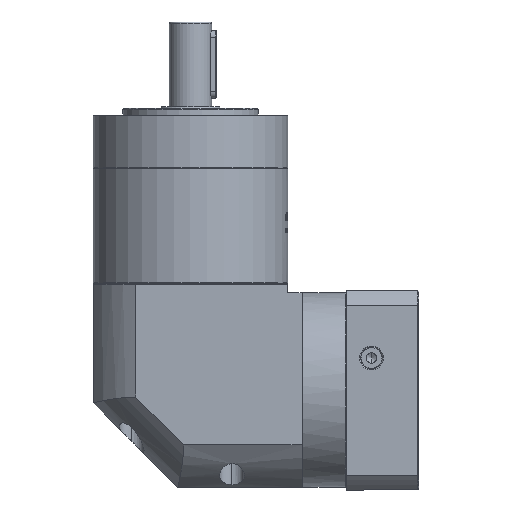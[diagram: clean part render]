
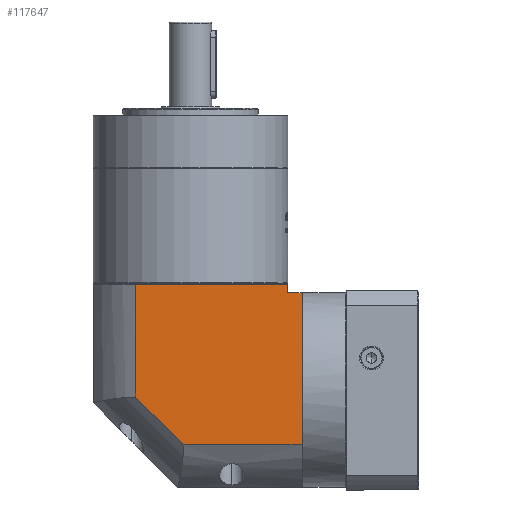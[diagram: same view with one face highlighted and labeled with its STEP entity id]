
A CAD part, left-side view. The second image highlights one B-rep face of the part: STEP entity #117647.
In plain terms, the highlighted planar face has unit normal (-1, 0, 0).
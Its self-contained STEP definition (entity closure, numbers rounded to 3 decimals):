
#4464 = VECTOR ( 'NONE', #33913, 1000. ) ;
#5405 = LINE ( 'NONE', #53455, #167752 ) ;
#6685 = PLANE ( 'NONE',  #177597 ) ;
#13064 = CARTESIAN_POINT ( 'NONE',  ( -281.463, -119.497, 61.2 ) ) ;
#13329 = DIRECTION ( 'NONE',  ( 0., 1., 0. ) ) ;
#14222 = VERTEX_POINT ( 'NONE', #98361 ) ;
#17191 = CARTESIAN_POINT ( 'NONE',  ( -281.463, -49.535, -40.2 ) ) ;
#18174 = VERTEX_POINT ( 'NONE', #67869 ) ;
#21220 = ORIENTED_EDGE ( 'NONE', *, *, #30365, .F. ) ;
#22057 = EDGE_CURVE ( 'NONE', #160319, #14222, #51669, .T. ) ;
#25599 = LINE ( 'NONE', #30970, #95836 ) ;
#27203 = DIRECTION ( 'NONE',  ( 0., 0., -1. ) ) ;
#30365 = EDGE_CURVE ( 'NONE', #132957, #36856, #5405, .T. ) ;
#30970 = CARTESIAN_POINT ( 'NONE',  ( -281.463, 3.903, 54.7 ) ) ;
#33913 = DIRECTION ( 'NONE',  ( 0., 1., 0. ) ) ;
#34260 = CARTESIAN_POINT ( 'NONE',  ( -281.463, 3.903, 61.2 ) ) ;
#36706 = EDGE_CURVE ( 'NONE', #160319, #18174, #94107, .T. ) ;
#36856 = VERTEX_POINT ( 'NONE', #177261 ) ;
#44505 = CARTESIAN_POINT ( 'NONE',  ( -281.463, -21.197, 54.7 ) ) ;
#46763 = EDGE_CURVE ( 'NONE', #18174, #109762, #155880, .T. ) ;
#48491 = CARTESIAN_POINT ( 'NONE',  ( -281.463, -21.197, 61.2 ) ) ;
#51669 = LINE ( 'NONE', #13064, #174550 ) ;
#53209 = ORIENTED_EDGE ( 'NONE', *, *, #46763, .T. ) ;
#53455 = CARTESIAN_POINT ( 'NONE',  ( -281.463, -49.535, -40.2 ) ) ;
#54185 = EDGE_CURVE ( 'NONE', #36856, #126824, #54624, .T. ) ;
#54624 = LINE ( 'NONE', #48491, #122814 ) ;
#56709 = ORIENTED_EDGE ( 'NONE', *, *, #22057, .F. ) ;
#57555 = CARTESIAN_POINT ( 'NONE',  ( -281.463, -111.097, -65.3 ) ) ;
#64418 = DIRECTION ( 'NONE',  ( 0., 0., 1. ) ) ;
#67869 = CARTESIAN_POINT ( 'NONE',  ( -281.463, -111.097, 49.7 ) ) ;
#74571 = EDGE_CURVE ( 'NONE', #126824, #109762, #25599, .T. ) ;
#89028 = CARTESIAN_POINT ( 'NONE',  ( -281.463, 3.903, -40.2 ) ) ;
#91243 = DIRECTION ( 'NONE',  ( 0., 1., 0. ) ) ;
#94107 = LINE ( 'NONE', #172471, #168645 ) ;
#95836 = VECTOR ( 'NONE', #129083, 1000. ) ;
#96815 = ORIENTED_EDGE ( 'NONE', *, *, #36706, .T. ) ;
#98361 = CARTESIAN_POINT ( 'NONE',  ( -281.463, -119.497, -40.2 ) ) ;
#100297 = FACE_OUTER_BOUND ( 'NONE', #108067, .T. ) ;
#108067 = EDGE_LOOP ( 'NONE', ( #146203, #21220, #169355, #56709, #96815, #53209, #162752 ) ) ;
#109762 = VERTEX_POINT ( 'NONE', #167751 ) ;
#117647 = ADVANCED_FACE ( 'NONE', ( #100297 ), #6685, .F. ) ;
#122814 = VECTOR ( 'NONE', #64418, 1000. ) ;
#125705 = DIRECTION ( 'NONE',  ( 0., 0., 1. ) ) ;
#126824 = VERTEX_POINT ( 'NONE', #44505 ) ;
#129083 = DIRECTION ( 'NONE',  ( 0., -1., 0. ) ) ;
#132957 = VERTEX_POINT ( 'NONE', #17191 ) ;
#140468 = LINE ( 'NONE', #89028, #4464 ) ;
#146203 = ORIENTED_EDGE ( 'NONE', *, *, #54185, .F. ) ;
#154192 = CARTESIAN_POINT ( 'NONE',  ( -281.463, -119.497, 49.7 ) ) ;
#155880 = LINE ( 'NONE', #57555, #164637 ) ;
#160319 = VERTEX_POINT ( 'NONE', #154192 ) ;
#160679 = EDGE_CURVE ( 'NONE', #14222, #132957, #140468, .T. ) ;
#162752 = ORIENTED_EDGE ( 'NONE', *, *, #74571, .F. ) ;
#164637 = VECTOR ( 'NONE', #125705, 1000. ) ;
#167751 = CARTESIAN_POINT ( 'NONE',  ( -281.463, -111.097, 54.7 ) ) ;
#167752 = VECTOR ( 'NONE', #179199, 1000. ) ;
#168645 = VECTOR ( 'NONE', #13329, 1000. ) ;
#169355 = ORIENTED_EDGE ( 'NONE', *, *, #160679, .F. ) ;
#172471 = CARTESIAN_POINT ( 'NONE',  ( -281.463, -111.097, 49.7 ) ) ;
#174550 = VECTOR ( 'NONE', #27203, 1000. ) ;
#175253 = DIRECTION ( 'NONE',  ( 1., 0., 0. ) ) ;
#177261 = CARTESIAN_POINT ( 'NONE',  ( -281.463, -21.197, -11.862 ) ) ;
#177597 = AXIS2_PLACEMENT_3D ( 'NONE', #34260, #175253, #91243 ) ;
#179199 = DIRECTION ( 'NONE',  ( 0., 0.707, 0.707 ) ) ;
